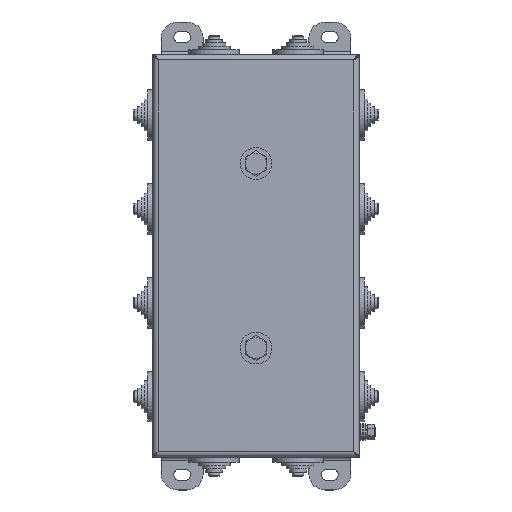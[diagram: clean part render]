
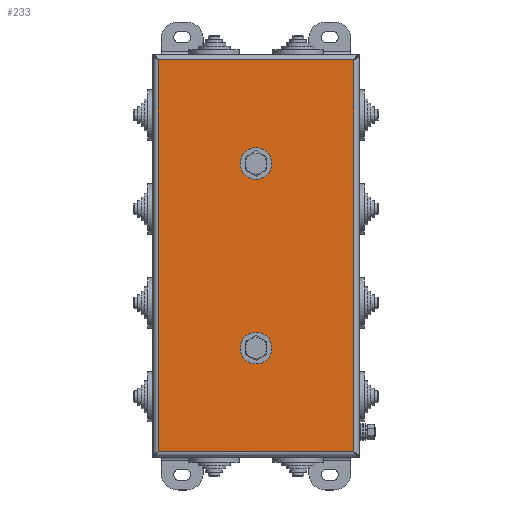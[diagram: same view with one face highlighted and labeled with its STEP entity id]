
A CAD part, top view. The second image highlights one B-rep face of the part: STEP entity #233.
In plain terms, the highlighted planar face has unit normal (0, 0, 1).
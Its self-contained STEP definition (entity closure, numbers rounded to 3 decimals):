
#233=ADVANCED_FACE('',(#21288,#21290,#21292),#21294,.T.);
#21288=FACE_BOUND('',#21289,.T.);
#21289=EDGE_LOOP('',(#38366,#38367,#38368,#38369));
#21290=FACE_BOUND('',#21291,.T.);
#21291=EDGE_LOOP('',(#38370));
#21292=FACE_BOUND('',#21293,.T.);
#21293=EDGE_LOOP('',(#38371));
#21294=PLANE('',#21295);
#21295=AXIS2_PLACEMENT_3D('',#21296,#21297,#21298);
#21296=CARTESIAN_POINT('',(0.,0.,61.7));
#21297=DIRECTION('',(0.,-0.,1.));
#21298=DIRECTION('',(0.,1.,0.));
#38366=ORIENTED_EDGE('',*,*,#52695,.T.);
#38367=ORIENTED_EDGE('',*,*,#52696,.T.);
#38368=ORIENTED_EDGE('',*,*,#52697,.T.);
#38369=ORIENTED_EDGE('',*,*,#52698,.T.);
#38370=ORIENTED_EDGE('',*,*,#52628,.T.);
#38371=ORIENTED_EDGE('',*,*,#52626,.T.);
#52626=EDGE_CURVE('',#58625,#58625,#58626,.F.);
#52628=EDGE_CURVE('',#58629,#58629,#58630,.F.);
#52695=EDGE_CURVE('',#58753,#58754,#58755,.T.);
#52696=EDGE_CURVE('',#58754,#58756,#58757,.T.);
#52697=EDGE_CURVE('',#58756,#58758,#58759,.T.);
#52698=EDGE_CURVE('',#58758,#58753,#58760,.T.);
#58625=VERTEX_POINT('',#68652);
#58626=CIRCLE('',#68653,8.5);
#58629=VERTEX_POINT('',#68662);
#58630=CIRCLE('',#68663,8.5);
#58753=VERTEX_POINT('',#68956);
#58754=VERTEX_POINT('',#68957);
#58755=LINE('',#68958,#68959);
#58756=VERTEX_POINT('',#68961);
#58757=LINE('',#68962,#68963);
#58758=VERTEX_POINT('',#68965);
#58759=LINE('',#68966,#68967);
#58760=LINE('',#68969,#68970);
#68652=CARTESIAN_POINT('',(-8.5,55.,61.7));
#68653=AXIS2_PLACEMENT_3D('',#68654,#68655,#68656);
#68654=CARTESIAN_POINT('',(0.,55.,61.7));
#68655=DIRECTION('',(0.,-0.,1.));
#68656=DIRECTION('',(-1.,0.,0.));
#68662=CARTESIAN_POINT('',(-8.5,-55.,61.7));
#68663=AXIS2_PLACEMENT_3D('',#68664,#68665,#68666);
#68664=CARTESIAN_POINT('',(0.,-55.,61.7));
#68665=DIRECTION('',(0.,-0.,1.));
#68666=DIRECTION('',(-1.,0.,0.));
#68956=CARTESIAN_POINT('',(58.3,116.8,61.7));
#68957=CARTESIAN_POINT('',(-58.3,116.8,61.7));
#68958=CARTESIAN_POINT('',(58.3,116.8,61.7));
#68959=VECTOR('',#68960,1.);
#68960=DIRECTION('',(-1.,0.,0.));
#68961=CARTESIAN_POINT('',(-58.3,-116.8,61.7));
#68962=CARTESIAN_POINT('',(-58.3,116.8,61.7));
#68963=VECTOR('',#68964,1.);
#68964=DIRECTION('',(0.,-1.,0.));
#68965=CARTESIAN_POINT('',(58.3,-116.8,61.7));
#68966=CARTESIAN_POINT('',(-58.3,-116.8,61.7));
#68967=VECTOR('',#68968,1.);
#68968=DIRECTION('',(1.,0.,0.));
#68969=CARTESIAN_POINT('',(58.3,-116.8,61.7));
#68970=VECTOR('',#68971,1.);
#68971=DIRECTION('',(0.,1.,0.));
